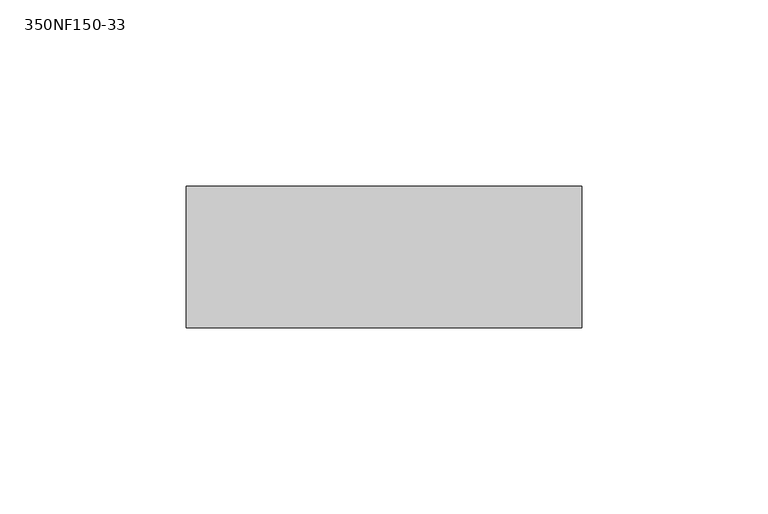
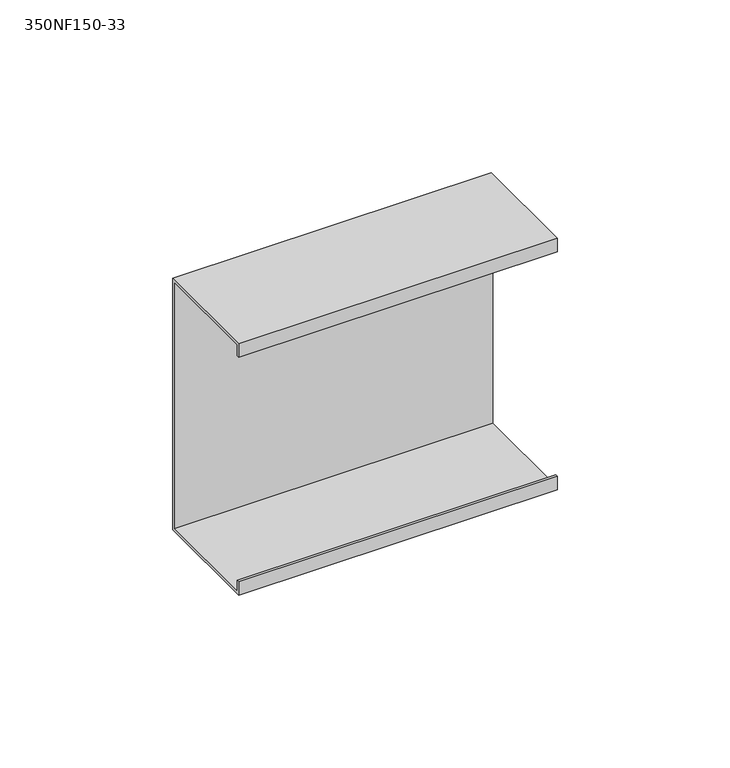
"""IFC4 building model written with IfcOpenShell, lengths in millimetres: beam geometry, BIMSF-SSMA-S : 350NF150-33."""

import ifcopenshell
import ifcopenshell.guid

model = None  # the IFC model being written
_history = None  # IfcOwnerHistory: only IFC2X3 demands one
_inside = {}  # id of a spatial element -> (the spatial element, [elements in it])
_under = {}  # id of a project, library or spatial element -> (it, [spatial elements below it])
_declared = {}  # id of a project -> (the project, [libraries it declares])
_typed = {}  # id of a type object -> (the type object, [elements of that type])
_made_of = {}  # id of a material, layer set ... -> (it, [elements and type objects made of it])


def new_model(schema):
    """Start an empty IFC model of exactly this schema.

    Asked for "IFC4X3", IfcOpenShell would pick the latest addendum, in which some entities
    have other attributes; the version numbers below select the first issue.
    IFC2X3 requires an IfcOwnerHistory on every rooted entity: one is made here for all.
    """
    global model, _history
    if schema == "IFC4X3":
        model = ifcopenshell.file(schema_version=(4, 3, 0, 0))
    else:
        model = ifcopenshell.file(schema=schema)
    _inside.clear()
    _under.clear()
    _declared.clear()
    _typed.clear()
    _made_of.clear()
    _history = None
    if model.schema == "IFC2X3":
        org = make("IfcOrganization", Name="unknown")
        user = make(
            "IfcPersonAndOrganization",
            ThePerson=make("IfcPerson", FamilyName="unknown"),
            TheOrganization=org,
        )
        app = make(
            "IfcApplication",
            ApplicationDeveloper=org,
            Version="unknown",
            ApplicationFullName="unknown",
            ApplicationIdentifier="unknown",
        )
        _history = make(
            "IfcOwnerHistory",
            OwningUser=user,
            OwningApplication=app,
            ChangeAction="ADDED",
            CreationDate=0,
        )
    return model


def make(cls, **values):
    """One entity of the class cls with the attributes given. An attribute that is None is left unset."""
    return model.create_entity(
        cls, **{name: value for name, value in values.items() if value is not None}
    )


def rooted(cls, **values):
    """An entity with a GlobalId (a new one), such as an element, a storey or a relation."""
    return make(cls, GlobalId=ifcopenshell.guid.new(), OwnerHistory=_history, **values)


def si_unit(unit_type, name, prefix=None):
    """IfcSIUnit, for example si_unit("LENGTHUNIT", "METRE", prefix="MILLI")."""
    return make("IfcSIUnit", UnitType=unit_type, Prefix=prefix, Name=name)


def assignment(units):
    """IfcUnitAssignment: the units of a project."""
    return None if units is None else make("IfcUnitAssignment", Units=units)


def point(xyz):
    """IfcCartesianPoint."""
    return None if xyz is None else make("IfcCartesianPoint", Coordinates=xyz)


def direction(xyz):
    """IfcDirection."""
    return None if xyz is None else make("IfcDirection", DirectionRatios=xyz)


def frame(location, z_axis=None, x_axis=None):
    """IfcAxis2Placement3D, a coordinate frame: its origin and axes. An axis left out is left unset."""
    return make(
        "IfcAxis2Placement3D",
        Location=point(location),
        Axis=direction(z_axis),
        RefDirection=direction(x_axis),
    )


def origin():
    """The frame at (0, 0, 0) with its axes left unset."""
    return frame((0.0, 0.0, 0.0))


def place(relative_to, where):
    """IfcLocalPlacement: puts the frame where relative to a parent placement (None: the world)."""
    return make(
        "IfcLocalPlacement", PlacementRelTo=relative_to, RelativePlacement=where
    )


def context(
    kind, dimensions, precision=None, world=None, true_north=None, identifier=None
):
    """IfcGeometricRepresentationContext, for example the 3D "Model" context."""
    return make(
        "IfcGeometricRepresentationContext",
        ContextIdentifier=identifier,
        ContextType=kind,
        CoordinateSpaceDimension=dimensions,
        Precision=precision,
        WorldCoordinateSystem=world,
        TrueNorth=true_north,
    )


def project(units=None, contexts=None):
    """IfcProject with its units and contexts."""
    return rooted(
        "IfcProject",
        Name="project",
        RepresentationContexts=contexts,
        UnitsInContext=assignment(units),
    )


def spatial(cls, under=None, at=None, **own):
    """A site, building, storey or space (cls), placed at a placement, below another one or the project."""
    s = rooted(cls, ObjectPlacement=at, **own)
    if under is not None:
        _under.setdefault(under.id(), (under, []))[1].append(s)
    return s


def polyline(points):
    """IfcPolyline through the points."""
    return make("IfcPolyline", Points=[point(p) for p in points])


def outline(outer, holes=None, kind="AREA"):
    """IfcArbitraryClosedProfileDef: a profile drawn as a closed curve; with holes, ...WithVoids."""
    if holes is None:
        return make("IfcArbitraryClosedProfileDef", ProfileType=kind, OuterCurve=outer)
    return make(
        "IfcArbitraryProfileDefWithVoids",
        ProfileType=kind,
        OuterCurve=outer,
        InnerCurves=holes,
    )


def extrude(swept, where, along, depth):
    """IfcExtrudedAreaSolid: the profile swept, set in the frame where, extruded along a direction by depth."""
    return make(
        "IfcExtrudedAreaSolid",
        SweptArea=swept,
        Position=where,
        ExtrudedDirection=direction(along),
        Depth=depth,
    )


def shape(context_of_items, identifier, shape_type, items):
    """IfcShapeRepresentation: the items that make up one representation, for example the "Body"."""
    return make(
        "IfcShapeRepresentation",
        ContextOfItems=context_of_items,
        RepresentationIdentifier=identifier,
        RepresentationType=shape_type,
        Items=items,
    )


def source(mapping_origin, context_of_items, identifier, shape_type, items):
    """IfcRepresentationMap: a shape defined once, which mapped items show again and again."""
    return make(
        "IfcRepresentationMap",
        MappingOrigin=mapping_origin,
        MappedRepresentation=shape(context_of_items, identifier, shape_type, items),
    )


def transform(
    local_origin,
    x_axis=None,
    y_axis=None,
    z_axis=None,
    scale=None,
    scale2=None,
    scale3=None,
    uniform=True,
):
    """IfcCartesianTransformationOperator3D, or its non-uniform kind. x_axis, y_axis, z_axis: its Axis1, 2, 3."""
    if uniform:
        return make(
            "IfcCartesianTransformationOperator3D",
            Axis1=direction(x_axis),
            Axis2=direction(y_axis),
            LocalOrigin=point(local_origin),
            Scale=scale,
            Axis3=direction(z_axis),
        )
    return make(
        "IfcCartesianTransformationOperator3DnonUniform",
        Axis1=direction(x_axis),
        Axis2=direction(y_axis),
        LocalOrigin=point(local_origin),
        Scale=scale,
        Axis3=direction(z_axis),
        Scale2=scale2,
        Scale3=scale3,
    )


def mapped(mapping_source, mapping_target):
    """IfcMappedItem: shows the shape of a source again, moved by a transform."""
    return make(
        "IfcMappedItem", MappingSource=mapping_source, MappingTarget=mapping_target
    )


def made_of(thing, what):
    """Note that an element or type object is made of a material, layer set ...; save() writes the relation."""
    if what is not None:
        _made_of.setdefault(what.id(), (what, []))[1].append(thing)
    return thing


def element(
    cls,
    number,
    at=None,
    inside=None,
    cuts=None,
    type_object=None,
    material=None,
    context=None,
    identifier="Body",
    shape_type=None,
    held_by="IfcProductDefinitionShape",
    body=None,
    shapes=None,
    **own,
):
    """One element of the class cls, such as IfcWall. Its Tag is "e" and its number.

    at: its placement. inside: the storey or other place that contains it. cuts: it is an
    opening in that element (IfcRelVoidsElement). A single representation is given by context,
    identifier, shape_type and body (its items); several are given by shapes. held_by: the class
    of the entity that holds the representations. save() writes the other relations.
    """
    e = rooted(cls, Tag="e%d" % number, ObjectPlacement=at, **own)
    if body is not None:
        shapes = [shape(context, identifier, shape_type, body)]
    if shapes is not None:
        e.Representation = make(held_by, Representations=shapes)
    if inside is not None:
        _inside.setdefault(inside.id(), (inside, []))[1].append(e)
    if cuts is not None:
        rooted(
            "IfcRelVoidsElement", RelatingBuildingElement=cuts, RelatedOpeningElement=e
        )
    if type_object is not None:
        _typed.setdefault(type_object.id(), (type_object, []))[1].append(e)
    return made_of(e, material)


def aggregate(whole, parts):
    """IfcRelAggregates: a whole, such as a stair, and the parts it consists of."""
    return rooted("IfcRelAggregates", RelatingObject=whole, RelatedObjects=parts)


def save(model, path):
    """Write the relations noted so far, then the file.

    IfcRelAggregates (storeys below a building ...), IfcRelContainedInSpatialStructure (elements
    in a storey), IfcRelDefinesByType, IfcRelAssociatesMaterial and IfcRelDeclares: one each for
    every whole, place, type object, material and project.
    """
    for whole, parts in _under.values():
        aggregate(whole, parts)
    for where, things in _inside.values():
        rooted(
            "IfcRelContainedInSpatialStructure",
            RelatedElements=things,
            RelatingStructure=where,
        )
    for kind, things in _typed.values():
        rooted("IfcRelDefinesByType", RelatedObjects=things, RelatingType=kind)
    for what, things in _made_of.values():
        rooted("IfcRelAssociatesMaterial", RelatedObjects=things, RelatingMaterial=what)
    for by, libraries in _declared.values():
        rooted("IfcRelDeclares", RelatingContext=by, RelatedDefinitions=libraries)
    model.write(path)


def beam_350nf150_33_ba5f3ba1(model_context):
    return source(origin(), model_context, "Body", "SweptSolid", [
        extrude(outline(polyline([(19.05, 44.45), (19.05, -44.45), (-19.05, -44.45), (-19.05, -39.6748), (-18.1676842, -39.6748), (-18.1676842, -43.5676842), (18.1676842, -43.5676842), (18.1676842, 43.5676842), (-18.1676842, 43.5676842), (-18.1676842, 39.6748), (-19.05, 39.6748), (-19.05, 44.45), (19.05, 44.45)])), frame((-53.2253469, 0.0, 0.0), z_axis=(1.0, 0.0, 0.0), x_axis=(0.0, 1.0, 0.0)), (0.0, 0.0, 1.0), 106.4506937),
    ])


if __name__ == "__main__":
    model = new_model("IFC4")
    model_context = context("Model", 3, world=origin())
    ifc_project = project(units=[si_unit("LENGTHUNIT", "METRE", prefix="MILLI")], contexts=[model_context])
    site = spatial("IfcSite", under=ifc_project)
    building = spatial("IfcBuilding", under=site)
    placement = place(None, origin())
    beam_350nf150_33_shape = beam_350nf150_33_ba5f3ba1(model_context)
    element("IfcBeam", 1, ObjectType="BIMSF-SSMA-S : 350NF150-33", at=placement, inside=building, context=model_context, shape_type="MappedRepresentation", body=[
        mapped(beam_350nf150_33_shape, transform((0.0, 0.0, 0.0), x_axis=(1.0, 0.0, 0.0), y_axis=(0.0, 1.0, 0.0), z_axis=(0.0, 0.0, 1.0))),
    ])
    save(model, "model.ifc")
